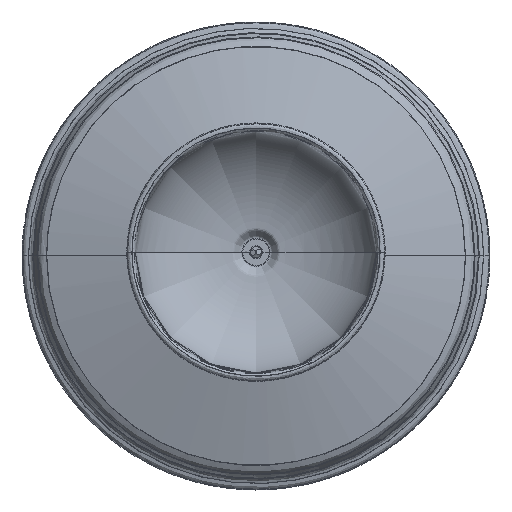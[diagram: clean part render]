
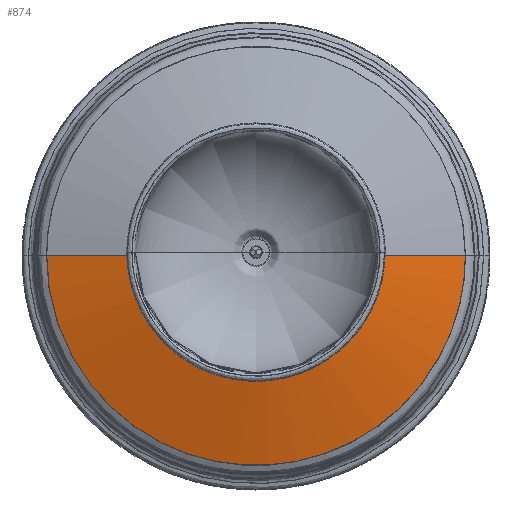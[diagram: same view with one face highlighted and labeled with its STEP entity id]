
A CAD part, top view. The second image highlights one B-rep face of the part: STEP entity #874.
In plain terms, the highlighted free-form (B-spline) face has degree [1, 2] with [2, 5] control points.
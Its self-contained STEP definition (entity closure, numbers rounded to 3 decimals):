
#874=ADVANCED_FACE('',(#2275),#21571,.T.);
#2275=FACE_OUTER_BOUND('',#3687,.T.);
#3687=EDGE_LOOP('',(#6518,#6519,#6520,#6521));
#6518=ORIENTED_EDGE('',*,*,#12583,.T.);
#6519=ORIENTED_EDGE('',*,*,#12558,.T.);
#6520=ORIENTED_EDGE('',*,*,#12554,.T.);
#6521=ORIENTED_EDGE('',*,*,#12582,.F.);
#12554=EDGE_CURVE('',#19117,#19131,#18340,.T.);
#12558=EDGE_CURVE('',#19120,#19117,#15737,.T.);
#12582=EDGE_CURVE('',#19132,#19131,#18364,.T.);
#12583=EDGE_CURVE('',#19132,#19120,#18365,.T.);
#15737=B_SPLINE_CURVE_WITH_KNOTS('',1,(#38638,#38639),.UNSPECIFIED.,.F.,
 .F.,(2,2),(43.529,109.201),.UNSPECIFIED.);
#18340=(
BOUNDED_CURVE()
B_SPLINE_CURVE(2,(#38623,#38624,#38625,#38626,#38627),.UNSPECIFIED.,.F.,
 .F.)
B_SPLINE_CURVE_WITH_KNOTS((3,2,3),(0.,172.362,344.725),
 .UNSPECIFIED.)
CURVE()
GEOMETRIC_REPRESENTATION_ITEM()
RATIONAL_B_SPLINE_CURVE((1.,0.707,1.,0.707,1.))
REPRESENTATION_ITEM('')
);
#18364=(
BOUNDED_CURVE()
B_SPLINE_CURVE(1,(#38900,#38901),.UNSPECIFIED.,.F.,.F.)
B_SPLINE_CURVE_WITH_KNOTS((2,2),(43.529,109.201),
 .UNSPECIFIED.)
CURVE()
GEOMETRIC_REPRESENTATION_ITEM()
RATIONAL_B_SPLINE_CURVE((1.,1.))
REPRESENTATION_ITEM('')
);
#18365=(
BOUNDED_CURVE()
B_SPLINE_CURVE(3,(#38902,#38903,#38904,#38905,#38906,#38907,#38908,#38909,
#38910,#38911,#38912,#38913,#38914,#38915,#38916,#38917,#38918,#38919,#38920,
#38921,#38922,#38923,#38924,#38925,#38926,#38927,#38928,#38929,#38930,#38931,
#38932,#38933,#38934,#38935,#38936,#38937,#38938,#38939,#38940,#38941,#38942,
#38943,#38944,#38945,#38946,#38947,#38948,#38949,#38950,#38951,#38952,#38953,
#38954,#38955,#38956,#38957,#38958,#38959),.UNSPECIFIED.,.F.,.F.)
B_SPLINE_CURVE_WITH_KNOTS((4,3,3,3,3,3,3,3,3,3,3,3,3,3,3,3,3,3,3,4),(155.043,
164.345,173.647,183.726,193.804,198.897,
203.989,208.975,213.962,223.263,232.565,
241.867,251.169,261.247,271.326,276.418,
281.511,286.497,291.483,310.087),
 .UNSPECIFIED.)
CURVE()
GEOMETRIC_REPRESENTATION_ITEM()
RATIONAL_B_SPLINE_CURVE((1.,1.,1.,1.,1.,1.,1.,1.,1.,1.,1.,
1.,1.,1.,1.,1.,1.,1.,1.,1.,1.,1.,1.,1.,1.,1.,1.,1.,1.,1.,1.,1.,1.,1.,1.,
1.,1.,1.,1.,1.,1.,1.,1.,1.,1.,1.,1.,1.,1.,1.,1.,1.,1.,1.,
1.,1.,1.,1.))
REPRESENTATION_ITEM('')
);
#19117=VERTEX_POINT('',#38480);
#19120=VERTEX_POINT('',#38483);
#19131=VERTEX_POINT('',#38494);
#19132=VERTEX_POINT('',#38495);
#21571=(
BOUNDED_SURFACE()
B_SPLINE_SURFACE(1,2,((#32178,#32179,#32180,#32181,#32182),(#32183,#32184,
#32185,#32186,#32187)),.UNSPECIFIED.,.F.,.F.,.F.)
B_SPLINE_SURFACE_WITH_KNOTS((2,2),(3,2,3),(43.529,109.201),
(0.,191.637,383.274),.UNSPECIFIED.)
GEOMETRIC_REPRESENTATION_ITEM()
RATIONAL_B_SPLINE_SURFACE(((1.,0.707,1.,0.707,1.),
(1.,0.707,1.,0.707,1.)))
REPRESENTATION_ITEM('')
SURFACE()
);
#32178=CARTESIAN_POINT('',(-47.154,0.,39.527));
#32179=CARTESIAN_POINT('',(-47.154,-47.154,39.527));
#32180=CARTESIAN_POINT('',(0.,-47.154,39.527));
#32181=CARTESIAN_POINT('',(47.154,-47.154,39.527));
#32182=CARTESIAN_POINT('',(47.154,0.,39.527));
#32183=CARTESIAN_POINT('',(-111.927,0.,21.021));
#32184=CARTESIAN_POINT('',(-111.927,-111.927,21.021));
#32185=CARTESIAN_POINT('',(0.,-111.927,21.021));
#32186=CARTESIAN_POINT('',(111.927,-111.927,21.021));
#32187=CARTESIAN_POINT('',(111.927,0.,21.021));
#38480=CARTESIAN_POINT('',(-111.927,0.,21.021));
#38483=CARTESIAN_POINT('',(-47.154,0.,39.527));
#38494=CARTESIAN_POINT('',(111.927,0.,21.021));
#38495=CARTESIAN_POINT('',(47.154,0.,39.527));
#38623=CARTESIAN_POINT('',(-111.927,0.,21.021));
#38624=CARTESIAN_POINT('',(-111.927,-111.927,21.021));
#38625=CARTESIAN_POINT('',(0.,-111.927,21.021));
#38626=CARTESIAN_POINT('',(111.927,-111.927,21.021));
#38627=CARTESIAN_POINT('',(111.927,0.,21.021));
#38638=CARTESIAN_POINT('',(-47.154,0.,39.527));
#38639=CARTESIAN_POINT('',(-111.927,0.,21.021));
#38900=CARTESIAN_POINT('',(47.154,0.,39.527));
#38901=CARTESIAN_POINT('',(111.927,0.,21.021));
#38902=CARTESIAN_POINT('',(47.154,0.,39.527));
#38903=CARTESIAN_POINT('',(47.154,-2.963,39.527));
#38904=CARTESIAN_POINT('',(46.874,-5.925,39.527));
#38905=CARTESIAN_POINT('',(46.319,-8.835,39.527));
#38906=CARTESIAN_POINT('',(45.764,-11.745,39.527));
#38907=CARTESIAN_POINT('',(44.934,-14.603,39.527));
#38908=CARTESIAN_POINT('',(43.844,-17.357,39.527));
#38909=CARTESIAN_POINT('',(42.662,-20.342,39.527));
#38910=CARTESIAN_POINT('',(41.175,-23.205,39.527));
#38911=CARTESIAN_POINT('',(39.413,-25.888,39.527));
#38912=CARTESIAN_POINT('',(37.65,-28.571,39.527));
#38913=CARTESIAN_POINT('',(35.613,-31.073,39.527));
#38914=CARTESIAN_POINT('',(33.343,-33.343,39.527));
#38915=CARTESIAN_POINT('',(32.196,-34.49,39.527));
#38916=CARTESIAN_POINT('',(30.99,-35.578,39.527));
#38917=CARTESIAN_POINT('',(29.731,-36.6,39.527));
#38918=CARTESIAN_POINT('',(28.472,-37.623,39.527));
#38919=CARTESIAN_POINT('',(27.161,-38.581,39.527));
#38920=CARTESIAN_POINT('',(25.803,-39.468,39.527));
#38921=CARTESIAN_POINT('',(24.474,-40.337,39.527));
#38922=CARTESIAN_POINT('',(23.101,-41.139,39.527));
#38923=CARTESIAN_POINT('',(21.691,-41.869,39.527));
#38924=CARTESIAN_POINT('',(20.281,-42.6,39.527));
#38925=CARTESIAN_POINT('',(18.834,-43.259,39.527));
#38926=CARTESIAN_POINT('',(17.357,-43.844,39.527));
#38927=CARTESIAN_POINT('',(14.603,-44.934,39.527));
#38928=CARTESIAN_POINT('',(11.745,-45.764,39.527));
#38929=CARTESIAN_POINT('',(8.835,-46.319,39.527));
#38930=CARTESIAN_POINT('',(5.925,-46.874,39.527));
#38931=CARTESIAN_POINT('',(2.963,-47.154,39.527));
#38932=CARTESIAN_POINT('',(0.,-47.154,39.527));
#38933=CARTESIAN_POINT('',(-2.963,-47.154,39.527));
#38934=CARTESIAN_POINT('',(-5.925,-46.874,39.527));
#38935=CARTESIAN_POINT('',(-8.835,-46.319,39.527));
#38936=CARTESIAN_POINT('',(-11.745,-45.764,39.527));
#38937=CARTESIAN_POINT('',(-14.603,-44.934,39.527));
#38938=CARTESIAN_POINT('',(-17.357,-43.844,39.527));
#38939=CARTESIAN_POINT('',(-20.342,-42.662,39.527));
#38940=CARTESIAN_POINT('',(-23.205,-41.175,39.527));
#38941=CARTESIAN_POINT('',(-25.888,-39.413,39.527));
#38942=CARTESIAN_POINT('',(-28.571,-37.65,39.527));
#38943=CARTESIAN_POINT('',(-31.073,-35.613,39.527));
#38944=CARTESIAN_POINT('',(-33.343,-33.343,39.527));
#38945=CARTESIAN_POINT('',(-34.49,-32.196,39.527));
#38946=CARTESIAN_POINT('',(-35.578,-30.99,39.527));
#38947=CARTESIAN_POINT('',(-36.6,-29.731,39.527));
#38948=CARTESIAN_POINT('',(-37.623,-28.473,39.527));
#38949=CARTESIAN_POINT('',(-38.581,-27.161,39.527));
#38950=CARTESIAN_POINT('',(-39.468,-25.803,39.527));
#38951=CARTESIAN_POINT('',(-40.337,-24.474,39.527));
#38952=CARTESIAN_POINT('',(-41.138,-23.101,39.527));
#38953=CARTESIAN_POINT('',(-41.869,-21.691,39.527));
#38954=CARTESIAN_POINT('',(-42.6,-20.281,39.527));
#38955=CARTESIAN_POINT('',(-43.26,-18.834,39.527));
#38956=CARTESIAN_POINT('',(-43.844,-17.357,39.527));
#38957=CARTESIAN_POINT('',(-46.026,-11.848,39.527));
#38958=CARTESIAN_POINT('',(-47.158,-5.926,39.527));
#38959=CARTESIAN_POINT('',(-47.154,0.,39.527));
